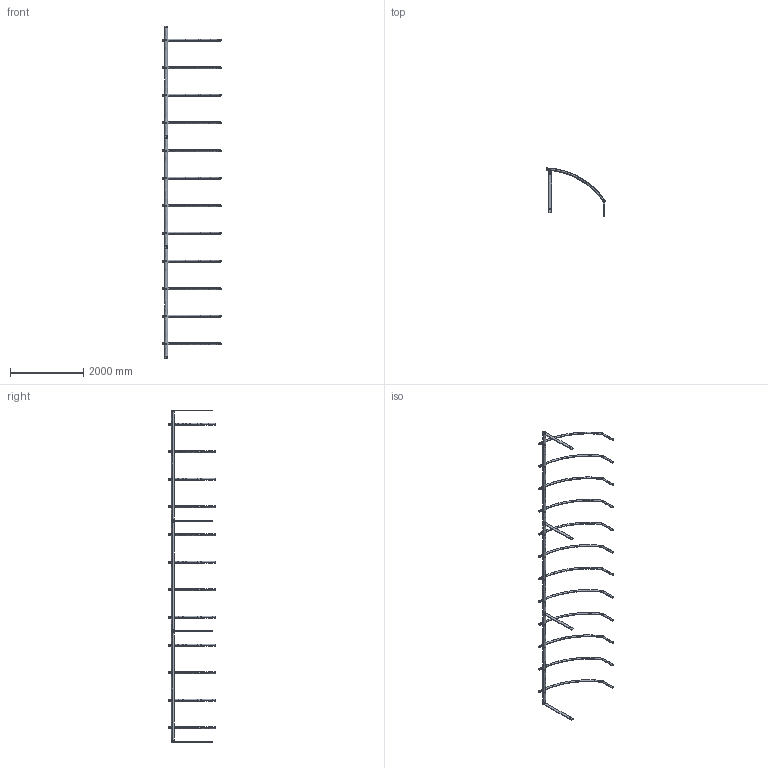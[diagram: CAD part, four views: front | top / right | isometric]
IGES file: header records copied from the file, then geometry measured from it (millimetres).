
Start section: SolidWorks IGES file using analytic representation for surfaces
Global section: file name: C:\SANTACOLE_PDM\I2\Productos de catálogo\outdoor\Mobiliario\Bici Línea\6_TECNICO COMERCIAL\3D WEB\Aparcabicis Bicilinea 3 tramos empotrable.IGS; native system: SolidWorks 2013; preprocessor: SolidWorks 2013; author: jordi.munoz; date: 150901.131236; units: millimetre
Bounding box: 1590.42 x 1297.62 x 9060 mm (x, y, z)
Surface area: 14198723.6 mm2 (no closed solid volume)
Topology: 0 solids, 0 shells, 2481 faces, 32700 edges, 32670 vertices
Faces by surface type: bspline 1705, revolution 776
